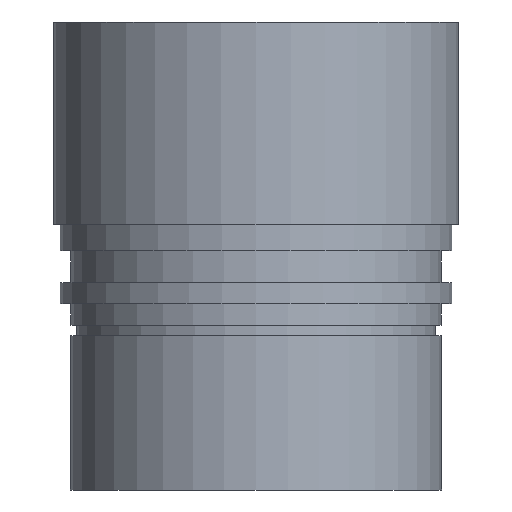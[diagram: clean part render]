
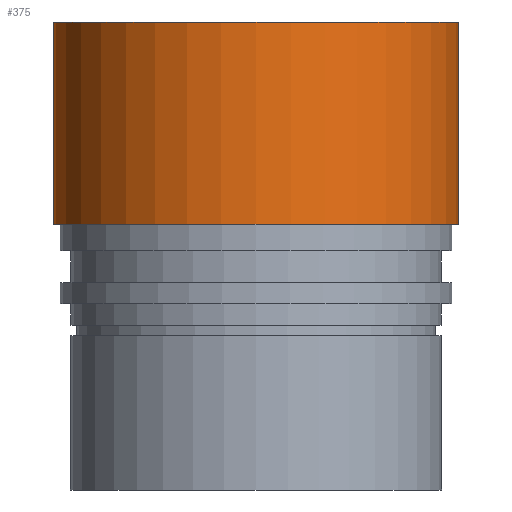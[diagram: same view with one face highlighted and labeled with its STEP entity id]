
A CAD part, front view. The second image highlights one B-rep face of the part: STEP entity #375.
In plain terms, the highlighted cylindrical face has radius 19.05 mm (diameter 38.1 mm), a full revolution.
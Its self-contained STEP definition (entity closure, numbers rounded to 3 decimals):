
#34 = DIRECTION ( 'NONE',  ( 1., 0., 0. ) ) ;
#35 = DIRECTION ( 'NONE',  ( 0., 0., 1. ) ) ;
#36 = CARTESIAN_POINT ( 'NONE',  ( 0., 0., 0. ) ) ;
#37 = DIRECTION ( 'NONE',  ( 1., 0., 0. ) ) ;
#38 = DIRECTION ( 'NONE',  ( 0., 0., -1. ) ) ;
#39 = VERTEX_POINT ( 'NONE', #573 ) ;
#92 = FACE_OUTER_BOUND ( 'NONE', #454, .T. ) ;
#98 = AXIS2_PLACEMENT_3D ( 'NONE', #36, #35, #34 ) ;
#109 = CYLINDRICAL_SURFACE ( 'NONE', #110, 19.05 ) ;
#110 = AXIS2_PLACEMENT_3D ( 'NONE', #571, #572, #247 ) ;
#117 = FACE_OUTER_BOUND ( 'NONE', #455, .T. ) ;
#132 = AXIS2_PLACEMENT_3D ( 'NONE', #246, #38, #37 ) ;
#228 = CARTESIAN_POINT ( 'NONE',  ( 19.05, 0., -19. ) ) ;
#229 = VERTEX_POINT ( 'NONE', #228 ) ;
#246 = CARTESIAN_POINT ( 'NONE',  ( 0., 0., -19. ) ) ;
#247 = DIRECTION ( 'NONE',  ( 1., 0., 0. ) ) ;
#375 = ADVANCED_FACE ( 'NONE', ( #92, #117 ), #109, .T. ) ;
#387 = EDGE_CURVE ( 'NONE', #229, #229, #412, .T. ) ;
#388 = EDGE_CURVE ( 'NONE', #39, #39, #413, .T. ) ;
#412 = CIRCLE ( 'NONE', #132, 19.05 ) ;
#413 = CIRCLE ( 'NONE', #98, 19.05 ) ;
#454 = EDGE_LOOP ( 'NONE', ( #500 ) ) ;
#455 = EDGE_LOOP ( 'NONE', ( #496 ) ) ;
#496 = ORIENTED_EDGE ( 'NONE', *, *, #387, .F. ) ;
#500 = ORIENTED_EDGE ( 'NONE', *, *, #388, .F. ) ;
#571 = CARTESIAN_POINT ( 'NONE',  ( 0., 0., -19. ) ) ;
#572 = DIRECTION ( 'NONE',  ( 0., 0., 1. ) ) ;
#573 = CARTESIAN_POINT ( 'NONE',  ( 19.05, 0., 0. ) ) ;
